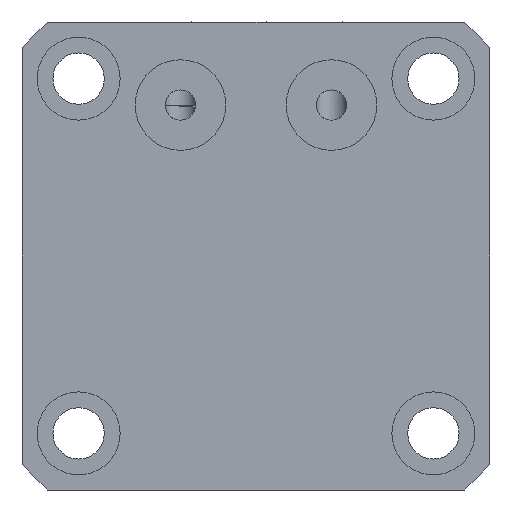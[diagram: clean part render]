
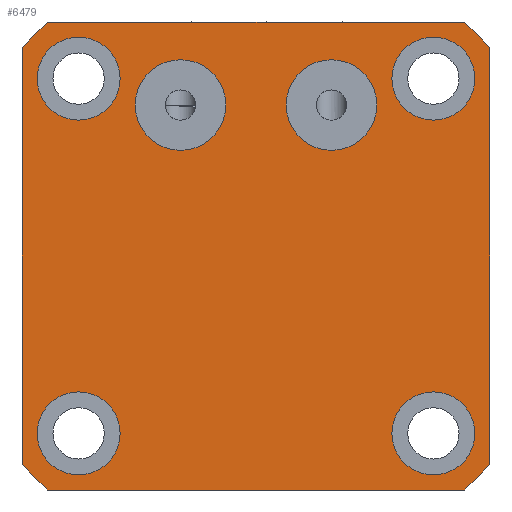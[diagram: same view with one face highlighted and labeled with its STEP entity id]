
A CAD part, left-side view. The second image highlights one B-rep face of the part: STEP entity #6479.
In plain terms, the highlighted planar face has unit normal (-1, 0, 0).
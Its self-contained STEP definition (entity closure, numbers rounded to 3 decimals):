
#2930=LINE('',#21071,#3856);
#2934=LINE('',#22305,#3860);
#2936=LINE('',#22311,#3862);
#2937=LINE('',#22315,#3863);
#3856=VECTOR('',#14393,1.);
#3860=VECTOR('',#14567,1.);
#3862=VECTOR('',#14573,1.);
#3863=VECTOR('',#14576,1.);
#4929=PLANE('',#13860);
#6479=ADVANCED_FACE('',(#7188,#7189,#7190,#7191,#7192,#7193,#7194),#4929,
 .F.);
#7020=CIRCLE('',#13773,6.);
#7022=CIRCLE('',#13776,6.);
#7024=CIRCLE('',#13779,5.5);
#7026=CIRCLE('',#13782,5.5);
#7028=CIRCLE('',#13785,5.5);
#7030=CIRCLE('',#13788,5.5);
#7066=CIRCLE('',#13856,41.5);
#7067=CIRCLE('',#13857,41.5);
#7068=CIRCLE('',#13858,41.5);
#7069=CIRCLE('',#13859,41.5);
#7188=FACE_BOUND('',#7434,.T.);
#7189=FACE_BOUND('',#7435,.T.);
#7190=FACE_BOUND('',#7436,.T.);
#7191=FACE_BOUND('',#7437,.T.);
#7192=FACE_BOUND('',#7438,.T.);
#7193=FACE_BOUND('',#7439,.T.);
#7194=FACE_BOUND('',#7440,.T.);
#7434=EDGE_LOOP('',(#8351,#8352,#8353,#8354,#8355,#8356,#8357,#8358));
#7435=EDGE_LOOP('',(#8359));
#7436=EDGE_LOOP('',(#8360));
#7437=EDGE_LOOP('',(#8361));
#7438=EDGE_LOOP('',(#8362));
#7439=EDGE_LOOP('',(#8363));
#7440=EDGE_LOOP('',(#8364));
#8351=ORIENTED_EDGE('',*,*,#12365,.F.);
#8352=ORIENTED_EDGE('',*,*,#12366,.F.);
#8353=ORIENTED_EDGE('',*,*,#12367,.F.);
#8354=ORIENTED_EDGE('',*,*,#12368,.F.);
#8355=ORIENTED_EDGE('',*,*,#12369,.F.);
#8356=ORIENTED_EDGE('',*,*,#12267,.F.);
#8357=ORIENTED_EDGE('',*,*,#12370,.F.);
#8358=ORIENTED_EDGE('',*,*,#12363,.F.);
#8359=ORIENTED_EDGE('',*,*,#12271,.F.);
#8360=ORIENTED_EDGE('',*,*,#12273,.F.);
#8361=ORIENTED_EDGE('',*,*,#12275,.F.);
#8362=ORIENTED_EDGE('',*,*,#12277,.F.);
#8363=ORIENTED_EDGE('',*,*,#12279,.F.);
#8364=ORIENTED_EDGE('',*,*,#12281,.F.);
#11180=VERTEX_POINT('',#21070);
#11181=VERTEX_POINT('',#21072);
#11184=VERTEX_POINT('',#21093);
#11186=VERTEX_POINT('',#21098);
#11188=VERTEX_POINT('',#21103);
#11190=VERTEX_POINT('',#21108);
#11192=VERTEX_POINT('',#21113);
#11194=VERTEX_POINT('',#21118);
#11267=VERTEX_POINT('',#22304);
#11268=VERTEX_POINT('',#22306);
#11269=VERTEX_POINT('',#22310);
#11270=VERTEX_POINT('',#22312);
#11271=VERTEX_POINT('',#22314);
#11272=VERTEX_POINT('',#22316);
#12267=EDGE_CURVE('',#11180,#11181,#2930,.T.);
#12271=EDGE_CURVE('',#11184,#11184,#7020,.T.);
#12273=EDGE_CURVE('',#11186,#11186,#7022,.T.);
#12275=EDGE_CURVE('',#11188,#11188,#7024,.T.);
#12277=EDGE_CURVE('',#11190,#11190,#7026,.T.);
#12279=EDGE_CURVE('',#11192,#11192,#7028,.T.);
#12281=EDGE_CURVE('',#11194,#11194,#7030,.T.);
#12363=EDGE_CURVE('',#11267,#11268,#2934,.T.);
#12365=EDGE_CURVE('',#11269,#11267,#7066,.T.);
#12366=EDGE_CURVE('',#11270,#11269,#2936,.T.);
#12367=EDGE_CURVE('',#11271,#11270,#7067,.T.);
#12368=EDGE_CURVE('',#11272,#11271,#2937,.T.);
#12369=EDGE_CURVE('',#11181,#11272,#7068,.T.);
#12370=EDGE_CURVE('',#11268,#11180,#7069,.T.);
#13773=AXIS2_PLACEMENT_3D('',#21092,#14401,#14402);
#13776=AXIS2_PLACEMENT_3D('',#21097,#14407,#14408);
#13779=AXIS2_PLACEMENT_3D('',#21102,#14413,#14414);
#13782=AXIS2_PLACEMENT_3D('',#21107,#14419,#14420);
#13785=AXIS2_PLACEMENT_3D('',#21112,#14425,#14426);
#13788=AXIS2_PLACEMENT_3D('',#21117,#14431,#14432);
#13856=AXIS2_PLACEMENT_3D('',#22309,#14571,#14572);
#13857=AXIS2_PLACEMENT_3D('',#22313,#14574,#14575);
#13858=AXIS2_PLACEMENT_3D('',#22317,#14577,#14578);
#13859=AXIS2_PLACEMENT_3D('',#22318,#14579,#14580);
#13860=AXIS2_PLACEMENT_3D('',#22319,#14581,#14582);
#14393=DIRECTION('',(0.,1.,0.));
#14401=DIRECTION('',(-1.,0.,0.));
#14402=DIRECTION('',(0.,0.,1.));
#14407=DIRECTION('',(-1.,0.,0.));
#14408=DIRECTION('',(0.,0.,1.));
#14413=DIRECTION('',(-1.,0.,0.));
#14414=DIRECTION('',(0.,0.,1.));
#14419=DIRECTION('',(-1.,0.,0.));
#14420=DIRECTION('',(0.,0.,1.));
#14425=DIRECTION('',(-1.,0.,0.));
#14426=DIRECTION('',(0.,0.,1.));
#14431=DIRECTION('',(-1.,0.,0.));
#14432=DIRECTION('',(0.,0.,1.));
#14567=DIRECTION('',(0.,0.,-1.));
#14571=DIRECTION('',(1.,0.,0.));
#14572=DIRECTION('',(0.,0.,-1.));
#14573=DIRECTION('',(0.,-1.,0.));
#14574=DIRECTION('',(1.,0.,0.));
#14575=DIRECTION('',(0.,0.,-1.));
#14576=DIRECTION('',(0.,0.,1.));
#14577=DIRECTION('',(1.,0.,0.));
#14578=DIRECTION('',(0.,0.,-1.));
#14579=DIRECTION('',(1.,0.,0.));
#14580=DIRECTION('',(0.,0.,-1.));
#14581=DIRECTION('',(1.,0.,0.));
#14582=DIRECTION('',(0.,0.,1.));
#21070=CARTESIAN_POINT('',(0.,3.409,-62.));
#21071=CARTESIAN_POINT('',(0.,31.,-62.));
#21072=CARTESIAN_POINT('',(0.,58.591,-62.));
#21092=CARTESIAN_POINT('',(0.,41.,-11.));
#21093=CARTESIAN_POINT('',(0.,41.,-5.));
#21097=CARTESIAN_POINT('',(0.,21.,-11.));
#21098=CARTESIAN_POINT('',(0.,21.,-5.));
#21102=CARTESIAN_POINT('',(0.,7.5,-54.5));
#21103=CARTESIAN_POINT('',(0.,7.5,-49.));
#21107=CARTESIAN_POINT('',(0.,7.5,-7.5));
#21108=CARTESIAN_POINT('',(0.,7.5,-2.));
#21112=CARTESIAN_POINT('',(0.,54.5,-7.5));
#21113=CARTESIAN_POINT('',(0.,54.5,-2.));
#21117=CARTESIAN_POINT('',(0.,54.5,-54.5));
#21118=CARTESIAN_POINT('',(0.,54.5,-49.));
#22304=CARTESIAN_POINT('',(0.,0.,-3.409));
#22305=CARTESIAN_POINT('',(0.,0.,-6.));
#22306=CARTESIAN_POINT('',(0.,0.,-58.591));
#22309=CARTESIAN_POINT('',(0.,31.,-31.));
#22310=CARTESIAN_POINT('',(0.,3.409,0.));
#22311=CARTESIAN_POINT('',(0.,31.,0.));
#22312=CARTESIAN_POINT('',(0.,58.591,0.));
#22313=CARTESIAN_POINT('',(0.,31.,-31.));
#22314=CARTESIAN_POINT('',(0.,62.,-3.409));
#22315=CARTESIAN_POINT('',(0.,62.,-31.));
#22316=CARTESIAN_POINT('',(0.,62.,-58.591));
#22317=CARTESIAN_POINT('',(0.,31.,-31.));
#22318=CARTESIAN_POINT('',(0.,31.,-31.));
#22319=CARTESIAN_POINT('',(0.,31.,-31.));
